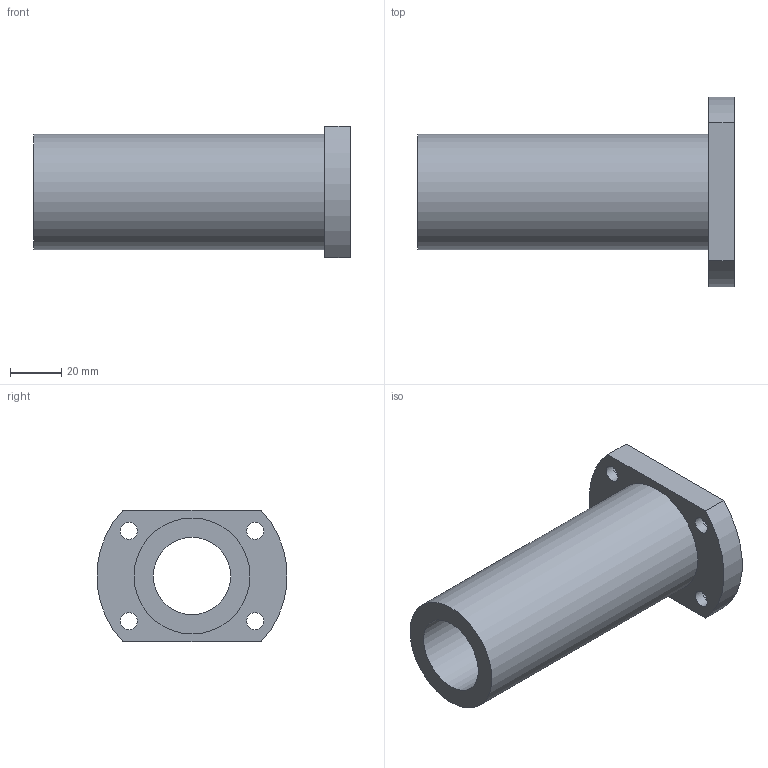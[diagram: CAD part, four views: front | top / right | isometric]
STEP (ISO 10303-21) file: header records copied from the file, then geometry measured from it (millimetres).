
FILE_DESCRIPTION(/* description */ ('Unknown'),/* implementation_level */ '2;1');
FILE_NAME(/* name */ 'LMH30LUU',/* time_stamp */ '2025-02-04T10:33:10+08:00',/* author */ ('Unknown'),/* organization */ ('Unknown'),/* preprocessor_version */ 'ST-DEVELOPER v18.102',/* originating_system */ 'Solid Edge',/* authorisation */ 'Unknown');
FILE_SCHEMA (('AUTOMOTIVE_DESIGN {1 0 10303 214 3 1 1}'));
Length unit declared in the file: millimetre
Products named in the file (1): LMH30LUU
Bounding box: 123 x 73.74 x 51 mm (x, y, z)
Volume: 124414.4 mm3; surface area: 36142.8 mm2
Topology: 1 solids, 1 shells, 21 faces, 42 edges, 28 vertices
Faces by surface type: cylinder 12, plane 9
Full cylindrical faces by diameter (mm): 6.6 x4, 11 x4, 30 x1, 45 x1
Entity records: 560 total; most frequent: DIRECTION 100, CARTESIAN_POINT 82, ORIENTED_EDGE 64, EDGE_LOOP 46, FACE_BOUND 46, AXIS2_PLACEMENT_3D 46, EDGE_CURVE 32, VERTEX_POINT 28
